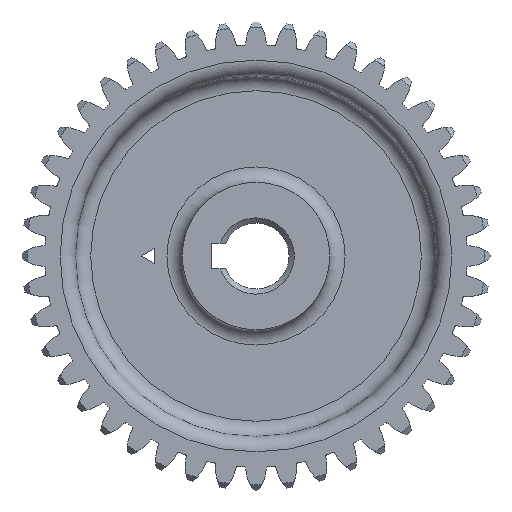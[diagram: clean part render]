
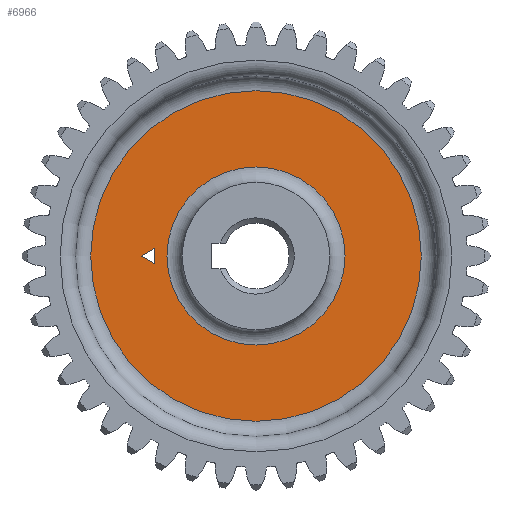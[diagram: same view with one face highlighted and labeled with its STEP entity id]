
A CAD part, left-side view. The second image highlights one B-rep face of the part: STEP entity #6966.
In plain terms, the highlighted planar face has unit normal (-1, 0, 0).
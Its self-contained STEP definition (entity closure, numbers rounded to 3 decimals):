
#558=FACE_BOUND('',#1955,.T.);
#559=FACE_BOUND('',#1956,.T.);
#1193=CIRCLE('',#7995,17.5);
#1194=CIRCLE('',#7997,32.5);
#1575=FACE_OUTER_BOUND('',#1954,.T.);
#1954=EDGE_LOOP('',(#6557));
#1955=EDGE_LOOP('',(#6558,#6559,#6560));
#1956=EDGE_LOOP('',(#6561));
#1964=LINE('',#10331,#2249);
#1968=LINE('',#10339,#2253);
#1971=LINE('',#10344,#2256);
#2249=VECTOR('',#8014,10.);
#2253=VECTOR('',#8020,10.);
#2256=VECTOR('',#8025,10.);
#2534=VERTEX_POINT('',#10329);
#2535=VERTEX_POINT('',#10330);
#2538=VERTEX_POINT('',#10338);
#3264=VERTEX_POINT('',#13057);
#3265=VERTEX_POINT('',#13061);
#3270=EDGE_CURVE('',#2534,#2535,#1964,.T.);
#3274=EDGE_CURVE('',#2535,#2538,#1968,.T.);
#3277=EDGE_CURVE('',#2538,#2534,#1971,.T.);
#4365=EDGE_CURVE('',#3264,#3264,#1193,.T.);
#4366=EDGE_CURVE('',#3265,#3265,#1194,.T.);
#6557=ORIENTED_EDGE('',*,*,#4366,.F.);
#6558=ORIENTED_EDGE('',*,*,#3274,.T.);
#6559=ORIENTED_EDGE('',*,*,#3277,.T.);
#6560=ORIENTED_EDGE('',*,*,#3270,.T.);
#6561=ORIENTED_EDGE('',*,*,#4365,.T.);
#6595=PLANE('',#7996);
#6966=ADVANCED_FACE('',(#1575,#558,#559),#6595,.T.);
#7995=AXIS2_PLACEMENT_3D('',#13059,#10296,#10297);
#7996=AXIS2_PLACEMENT_3D('',#13060,#10298,#10299);
#7997=AXIS2_PLACEMENT_3D('',#13062,#10300,#10301);
#8014=DIRECTION('',(0.,0.,-1.));
#8020=DIRECTION('',(0.,0.866,0.5));
#8025=DIRECTION('',(0.,-0.866,0.5));
#10296=DIRECTION('center_axis',(1.,0.,0.));
#10297=DIRECTION('ref_axis',(0.,0.,-1.));
#10298=DIRECTION('center_axis',(-1.,0.,0.));
#10299=DIRECTION('ref_axis',(0.,0.,1.));
#10300=DIRECTION('center_axis',(1.,0.,0.));
#10301=DIRECTION('ref_axis',(0.,0.,-1.));
#10329=CARTESIAN_POINT('',(-3.,20.,1.5));
#10330=CARTESIAN_POINT('',(-3.,20.,-1.5));
#10331=CARTESIAN_POINT('',(-3.,20.,-0.75));
#10338=CARTESIAN_POINT('',(-3.,22.598,0.));
#10339=CARTESIAN_POINT('',(-3.,26.311,2.144));
#10344=CARTESIAN_POINT('',(-3.,25.012,-1.394));
#13057=CARTESIAN_POINT('',(-3.,0.,17.5));
#13059=CARTESIAN_POINT('Origin',(-3.,0.,
0.));
#13060=CARTESIAN_POINT('Origin',(-3.,32.5,0.));
#13061=CARTESIAN_POINT('',(-3.,0.,32.5));
#13062=CARTESIAN_POINT('Origin',(-3.,0.,
0.));
